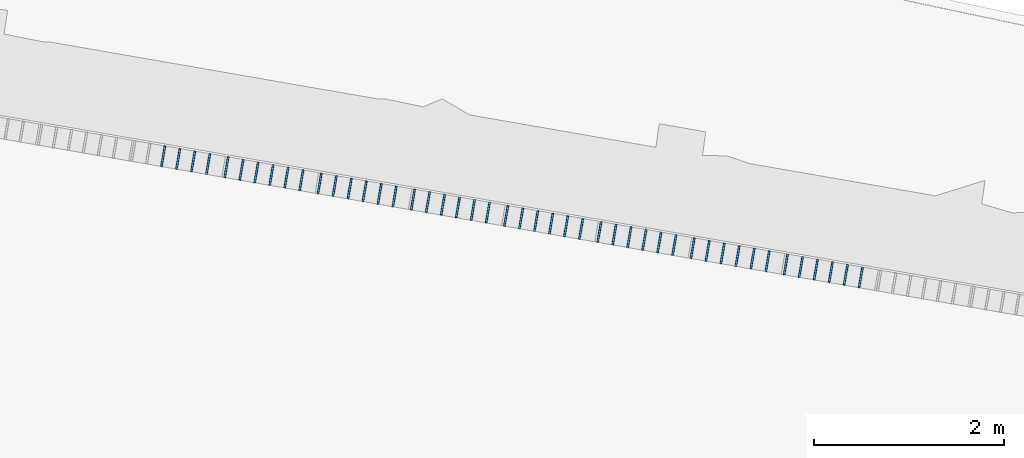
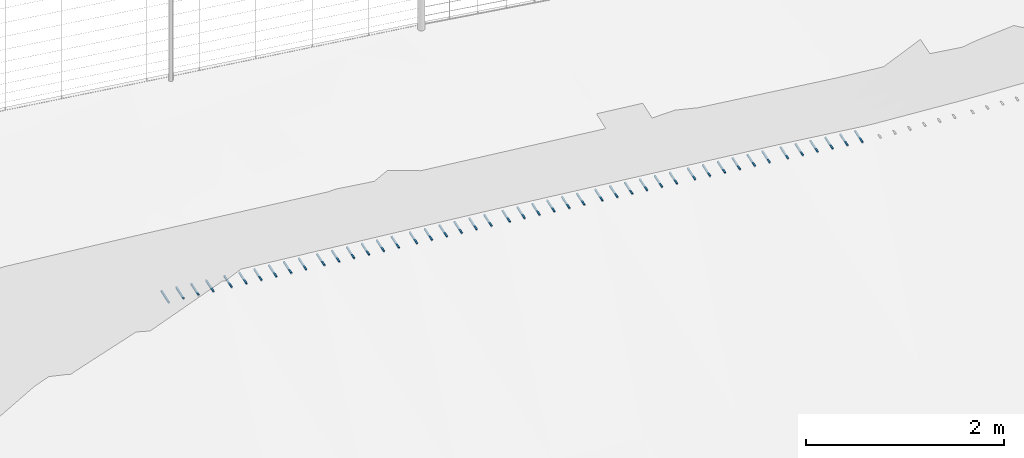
# Not in any storey, part 23 of 72: 46 members.
"""IFC4 model written with IfcOpenShell, lengths in metres."""

import ifcopenshell
import ifcopenshell.guid

model = None  # the IFC model being written
_history = None  # IfcOwnerHistory: only IFC2X3 demands one
_inside = {}  # id of a spatial element -> (the spatial element, [elements in it])
_under = {}  # id of a project, library or spatial element -> (it, [spatial elements below it])
_declared = {}  # id of a project -> (the project, [libraries it declares])
_typed = {}  # id of a type object -> (the type object, [elements of that type])
_made_of = {}  # id of a material, layer set ... -> (it, [elements and type objects made of it])


def new_model(schema):
    """Start an empty IFC model of exactly this schema.

    Asked for "IFC4X3", IfcOpenShell would pick the latest addendum, in which some entities
    have other attributes; the version numbers below select the first issue.
    IFC2X3 requires an IfcOwnerHistory on every rooted entity: one is made here for all.
    """
    global model, _history
    if schema == "IFC4X3":
        model = ifcopenshell.file(schema_version=(4, 3, 0, 0))
    else:
        model = ifcopenshell.file(schema=schema)
    _inside.clear()
    _under.clear()
    _declared.clear()
    _typed.clear()
    _made_of.clear()
    _history = None
    if model.schema == "IFC2X3":
        org = make("IfcOrganization", Name="unknown")
        user = make(
            "IfcPersonAndOrganization",
            ThePerson=make("IfcPerson", FamilyName="unknown"),
            TheOrganization=org,
        )
        app = make(
            "IfcApplication",
            ApplicationDeveloper=org,
            Version="unknown",
            ApplicationFullName="unknown",
            ApplicationIdentifier="unknown",
        )
        _history = make(
            "IfcOwnerHistory",
            OwningUser=user,
            OwningApplication=app,
            ChangeAction="ADDED",
            CreationDate=0,
        )
    return model


def make(cls, **values):
    """One entity of the class cls with the attributes given. An attribute that is None is left unset."""
    return model.create_entity(
        cls, **{name: value for name, value in values.items() if value is not None}
    )


def rooted(cls, **values):
    """An entity with a GlobalId (a new one), such as an element, a storey or a relation."""
    return make(cls, GlobalId=ifcopenshell.guid.new(), OwnerHistory=_history, **values)


def si_unit(unit_type, name, prefix=None):
    """IfcSIUnit, for example si_unit("LENGTHUNIT", "METRE", prefix="MILLI")."""
    return make("IfcSIUnit", UnitType=unit_type, Prefix=prefix, Name=name)


def assignment(units):
    """IfcUnitAssignment: the units of a project."""
    return None if units is None else make("IfcUnitAssignment", Units=units)


def point(xyz):
    """IfcCartesianPoint."""
    return None if xyz is None else make("IfcCartesianPoint", Coordinates=xyz)


def direction(xyz):
    """IfcDirection."""
    return None if xyz is None else make("IfcDirection", DirectionRatios=xyz)


def frame(location, z_axis=None, x_axis=None):
    """IfcAxis2Placement3D, a coordinate frame: its origin and axes. An axis left out is left unset."""
    return make(
        "IfcAxis2Placement3D",
        Location=point(location),
        Axis=direction(z_axis),
        RefDirection=direction(x_axis),
    )


def origin_with_axes():
    """The frame at (0, 0, 0) with the z axis (0, 0, 1) and the x axis (1, 0, 0) written out."""
    return frame((0.0, 0.0, 0.0), z_axis=(0.0, 0.0, 1.0), x_axis=(1.0, 0.0, 0.0))


def place(relative_to, where):
    """IfcLocalPlacement: puts the frame where relative to a parent placement (None: the world)."""
    return make(
        "IfcLocalPlacement", PlacementRelTo=relative_to, RelativePlacement=where
    )


def context(
    kind, dimensions, precision=None, world=None, true_north=None, identifier=None
):
    """IfcGeometricRepresentationContext, for example the 3D "Model" context."""
    return make(
        "IfcGeometricRepresentationContext",
        ContextIdentifier=identifier,
        ContextType=kind,
        CoordinateSpaceDimension=dimensions,
        Precision=precision,
        WorldCoordinateSystem=world,
        TrueNorth=true_north,
    )


def subcontext(parent, identifier, kind, view, scale=None):
    """IfcGeometricRepresentationSubContext, for example "Body" below "Model"."""
    return make(
        "IfcGeometricRepresentationSubContext",
        ContextIdentifier=identifier,
        ContextType=kind,
        ParentContext=parent,
        TargetScale=scale,
        TargetView=view,
    )


def project(units=None, contexts=None):
    """IfcProject with its units and contexts."""
    return rooted(
        "IfcProject",
        Name="project",
        RepresentationContexts=contexts,
        UnitsInContext=assignment(units),
    )


def spatial(cls, under=None, at=None, **own):
    """A site, building, storey or space (cls), placed at a placement, below another one or the project."""
    s = rooted(cls, ObjectPlacement=at, **own)
    if under is not None:
        _under.setdefault(under.id(), (under, []))[1].append(s)
    return s


def profile(cls, at=None, kind="AREA", **sizes):
    """A parametric profile (cls). Its sizes go by their IFC names, for example OverallWidth=200.0."""
    return make(cls, ProfileType=kind, Position=at, **sizes)


def rectangle(**sizes):
    """IfcRectangleProfileDef."""
    return profile("IfcRectangleProfileDef", **sizes)


def extrude(swept, where, along, depth):
    """IfcExtrudedAreaSolid: the profile swept, set in the frame where, extruded along a direction by depth."""
    return make(
        "IfcExtrudedAreaSolid",
        SweptArea=swept,
        Position=where,
        ExtrudedDirection=direction(along),
        Depth=depth,
    )


def shape(context_of_items, identifier, shape_type, items):
    """IfcShapeRepresentation: the items that make up one representation, for example the "Body"."""
    return make(
        "IfcShapeRepresentation",
        ContextOfItems=context_of_items,
        RepresentationIdentifier=identifier,
        RepresentationType=shape_type,
        Items=items,
    )


def material(Name=None, Category=None):
    """IfcMaterial."""
    return make("IfcMaterial", Name=Name, Category=Category)


def material_profile(
    of_material, cross_section, Name=None, Category=None, Priority=None
):
    """IfcMaterialProfile: a cross section and its material."""
    return make(
        "IfcMaterialProfile",
        Name=Name,
        Material=of_material,
        Profile=cross_section,
        Priority=Priority,
        Category=Category,
    )


def profile_set(profiles, Name=None, composite=None):
    """IfcMaterialProfileSet."""
    return make(
        "IfcMaterialProfileSet",
        Name=Name,
        MaterialProfiles=profiles,
        CompositeProfile=composite,
    )


def profile_usage(for_profile_set, cardinal=None, extent=None):
    """IfcMaterialProfileSetUsage: how a profile set lies along its element."""
    return make(
        "IfcMaterialProfileSetUsage",
        ForProfileSet=for_profile_set,
        CardinalPoint=cardinal,
        ReferenceExtent=extent,
    )


def made_of(thing, what):
    """Note that an element or type object is made of a material, layer set ...; save() writes the relation."""
    if what is not None:
        _made_of.setdefault(what.id(), (what, []))[1].append(thing)
    return thing


def type_object(cls, material=None, **own):
    """A type object (cls), such as IfcWallType, which elements share."""
    return made_of(rooted(cls, **own), material)


def element(
    cls,
    number,
    at=None,
    inside=None,
    cuts=None,
    type_object=None,
    material=None,
    context=None,
    identifier="Body",
    shape_type=None,
    held_by="IfcProductDefinitionShape",
    body=None,
    shapes=None,
    **own,
):
    """One element of the class cls, such as IfcWall. Its Tag is "e" and its number.

    at: its placement. inside: the storey or other place that contains it. cuts: it is an
    opening in that element (IfcRelVoidsElement). A single representation is given by context,
    identifier, shape_type and body (its items); several are given by shapes. held_by: the class
    of the entity that holds the representations. save() writes the other relations.
    """
    e = rooted(cls, Tag="e%d" % number, ObjectPlacement=at, **own)
    if body is not None:
        shapes = [shape(context, identifier, shape_type, body)]
    if shapes is not None:
        e.Representation = make(held_by, Representations=shapes)
    if inside is not None:
        _inside.setdefault(inside.id(), (inside, []))[1].append(e)
    if cuts is not None:
        rooted(
            "IfcRelVoidsElement", RelatingBuildingElement=cuts, RelatedOpeningElement=e
        )
    if type_object is not None:
        _typed.setdefault(type_object.id(), (type_object, []))[1].append(e)
    return made_of(e, material)


def aggregate(whole, parts):
    """IfcRelAggregates: a whole, such as a stair, and the parts it consists of."""
    return rooted("IfcRelAggregates", RelatingObject=whole, RelatedObjects=parts)


def save(model, path):
    """Write the relations noted so far, then the file.

    IfcRelAggregates (storeys below a building ...), IfcRelContainedInSpatialStructure (elements
    in a storey), IfcRelDefinesByType, IfcRelAssociatesMaterial and IfcRelDeclares: one each for
    every whole, place, type object, material and project.
    """
    for whole, parts in _under.values():
        aggregate(whole, parts)
    for where, things in _inside.values():
        rooted(
            "IfcRelContainedInSpatialStructure",
            RelatedElements=things,
            RelatingStructure=where,
        )
    for kind, things in _typed.values():
        rooted("IfcRelDefinesByType", RelatedObjects=things, RelatingType=kind)
    for what, things in _made_of.values():
        rooted("IfcRelAssociatesMaterial", RelatedObjects=things, RelatingMaterial=what)
    for by, libraries in _declared.values():
        rooted("IfcRelDeclares", RelatingContext=by, RelatedDefinitions=libraries)
    model.write(path)


model = new_model("IFC4")

# Units and contexts
model_context = context("Model", 3, precision=1e-05, world=origin_with_axes(), true_north=direction((0.0, 1.0)))
body_context = subcontext(model_context, "Body", "Model", "MODEL_VIEW")
ifc_project = project(units=[si_unit("VOLUMEUNIT", "CUBIC_METRE"), si_unit("LENGTHUNIT", "METRE"), si_unit("AREAUNIT", "SQUARE_METRE")], contexts=[model_context])

# Site
site_placement = place(None, origin_with_axes())
site = spatial("IfcSite", under=ifc_project, at=site_placement, Name="Lares · Rua das Mercês · artigo 4771")

# Members
ifc_material = material(Name="Aço galvanizado / Stahl verzinkt", Category="steel")
ifc_material_profile = material_profile(ifc_material, rectangle(XDim=0.018, YDim=0.018))
ifc_profile_set = profile_set([ifc_material_profile], Name="R0.018")
ifc_profile_usage_1 = profile_usage(ifc_profile_set)
member_type = type_object("IfcMemberType", Name="R0.018 / galvanized", PredefinedType="NOTDEFINED", material=ifc_profile_set)
member_1_placement = place(site_placement, frame((52.1385251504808, 10.7294969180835, 14.9724957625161), z_axis=(0.171148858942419, 0.985245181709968, 0.0), x_axis=(0.985245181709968, -0.171148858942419, 0.0)))
element("IfcMember", 1, at=member_1_placement, inside=site, type_object=member_type, material=ifc_profile_usage_1, Name="Acesso · dreno lateral raso · grelha", context=body_context, shape_type="SweptSolid", body=[
    extrude(rectangle(XDim=0.018, YDim=0.018), origin_with_axes(), (0.0, 0.0, 1.0), 0.220000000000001),
])
ifc_profile_usage_2 = profile_usage(ifc_profile_set)
member_2_placement = place(site_placement, frame((52.2961643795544, 10.7021131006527, 14.977378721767), z_axis=(0.171148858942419, 0.985245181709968, 0.0), x_axis=(0.985245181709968, -0.171148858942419, 0.0)))
element("IfcMember", 2, at=member_2_placement, inside=site, type_object=member_type, material=ifc_profile_usage_2, Name="Acesso · dreno lateral raso · grelha", context=body_context, shape_type="SweptSolid", body=[
    extrude(rectangle(XDim=0.018, YDim=0.018), origin_with_axes(), (0.0, 0.0, 1.0), 0.220000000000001),
])
ifc_profile_usage_3 = profile_usage(ifc_profile_set)
member_3_placement = place(site_placement, frame((52.453803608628, 10.6747292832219, 14.9822616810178), z_axis=(0.171148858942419, 0.985245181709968, 0.0), x_axis=(0.985245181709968, -0.171148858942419, 0.0)))
element("IfcMember", 3, at=member_3_placement, inside=site, type_object=member_type, material=ifc_profile_usage_3, Name="Acesso · dreno lateral raso · grelha", context=body_context, shape_type="SweptSolid", body=[
    extrude(rectangle(XDim=0.018, YDim=0.018), origin_with_axes(), (0.0, 0.0, 1.0), 0.220000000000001),
])
ifc_profile_usage_4 = profile_usage(ifc_profile_set)
member_4_placement = place(site_placement, frame((52.6114428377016, 10.6473454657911, 14.9871446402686), z_axis=(0.171148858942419, 0.985245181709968, 0.0), x_axis=(0.985245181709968, -0.171148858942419, 0.0)))
element("IfcMember", 4, at=member_4_placement, inside=site, type_object=member_type, material=ifc_profile_usage_4, Name="Acesso · dreno lateral raso · grelha", context=body_context, shape_type="SweptSolid", body=[
    extrude(rectangle(XDim=0.018, YDim=0.018), origin_with_axes(), (0.0, 0.0, 1.0), 0.220000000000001),
])
ifc_profile_usage_5 = profile_usage(ifc_profile_set)
member_5_placement = place(site_placement, frame((52.8041241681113, 10.6138744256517, 14.9930826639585), z_axis=(0.171148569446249, 0.985245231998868, 0.0), x_axis=(0.985245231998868, -0.171148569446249, 0.0)))
element("IfcMember", 5, at=member_5_placement, inside=site, type_object=member_type, material=ifc_profile_usage_5, Name="Acesso · dreno lateral raso · grelha", context=body_context, shape_type="SweptSolid", body=[
    extrude(rectangle(XDim=0.018, YDim=0.018), origin_with_axes(), (0.0, 0.0, 1.0), 0.220000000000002),
])
ifc_profile_usage_6 = profile_usage(ifc_profile_set)
member_6_placement = place(site_placement, frame((52.9617634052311, 10.5864906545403, 14.9978035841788), z_axis=(0.171148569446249, 0.985245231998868, 0.0), x_axis=(0.985245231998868, -0.171148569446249, 0.0)))
element("IfcMember", 6, at=member_6_placement, inside=site, type_object=member_type, material=ifc_profile_usage_6, Name="Acesso · dreno lateral raso · grelha", context=body_context, shape_type="SweptSolid", body=[
    extrude(rectangle(XDim=0.018, YDim=0.018), origin_with_axes(), (0.0, 0.0, 1.0), 0.220000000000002),
])
ifc_profile_usage_7 = profile_usage(ifc_profile_set)
member_7_placement = place(site_placement, frame((53.1194026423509, 10.5591068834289, 15.002524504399), z_axis=(0.171148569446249, 0.985245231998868, 0.0), x_axis=(0.985245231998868, -0.171148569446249, 0.0)))
element("IfcMember", 7, at=member_7_placement, inside=site, type_object=member_type, material=ifc_profile_usage_7, Name="Acesso · dreno lateral raso · grelha", context=body_context, shape_type="SweptSolid", body=[
    extrude(rectangle(XDim=0.018, YDim=0.018), origin_with_axes(), (0.0, 0.0, 1.0), 0.220000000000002),
])
ifc_profile_usage_8 = profile_usage(ifc_profile_set)
member_8_placement = place(site_placement, frame((53.2770418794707, 10.5317231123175, 15.0072454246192), z_axis=(0.171148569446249, 0.985245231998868, 0.0), x_axis=(0.985245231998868, -0.171148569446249, 0.0)))
element("IfcMember", 8, at=member_8_placement, inside=site, type_object=member_type, material=ifc_profile_usage_8, Name="Acesso · dreno lateral raso · grelha", context=body_context, shape_type="SweptSolid", body=[
    extrude(rectangle(XDim=0.018, YDim=0.018), origin_with_axes(), (0.0, 0.0, 1.0), 0.220000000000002),
])
ifc_profile_usage_9 = profile_usage(ifc_profile_set)
member_9_placement = place(site_placement, frame((53.4346811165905, 10.5043393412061, 15.0119663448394), z_axis=(0.171148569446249, 0.985245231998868, 0.0), x_axis=(0.985245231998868, -0.171148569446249, 0.0)))
element("IfcMember", 9, at=member_9_placement, inside=site, type_object=member_type, material=ifc_profile_usage_9, Name="Acesso · dreno lateral raso · grelha", context=body_context, shape_type="SweptSolid", body=[
    extrude(rectangle(XDim=0.018, YDim=0.018), origin_with_axes(), (0.0, 0.0, 1.0), 0.220000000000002),
])
ifc_profile_usage_10 = profile_usage(ifc_profile_set)
member_10_placement = place(site_placement, frame((53.5923203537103, 10.4769555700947, 15.0166872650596), z_axis=(0.171148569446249, 0.985245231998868, 0.0), x_axis=(0.985245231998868, -0.171148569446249, 0.0)))
element("IfcMember", 10, at=member_10_placement, inside=site, type_object=member_type, material=ifc_profile_usage_10, Name="Acesso · dreno lateral raso · grelha", context=body_context, shape_type="SweptSolid", body=[
    extrude(rectangle(XDim=0.018, YDim=0.018), origin_with_axes(), (0.0, 0.0, 1.0), 0.220000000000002),
])
ifc_profile_usage_11 = profile_usage(ifc_profile_set)
member_11_placement = place(site_placement, frame((53.7850053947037, 10.4434839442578, 15.022427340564), z_axis=(0.171148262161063, 0.985245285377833, 0.0), x_axis=(0.985245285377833, -0.171148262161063, 0.0)))
element("IfcMember", 11, at=member_11_placement, inside=site, type_object=member_type, material=ifc_profile_usage_11, Name="Acesso · dreno lateral raso · grelha", context=body_context, shape_type="SweptSolid", body=[
    extrude(rectangle(XDim=0.018, YDim=0.018), origin_with_axes(), (0.0, 0.0, 1.0), 0.22),
])
ifc_profile_usage_12 = profile_usage(ifc_profile_set)
member_12_placement = place(site_placement, frame((53.9426446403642, 10.416100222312, 15.0269862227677), z_axis=(0.171148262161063, 0.985245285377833, 0.0), x_axis=(0.985245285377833, -0.171148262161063, 0.0)))
element("IfcMember", 12, at=member_12_placement, inside=site, type_object=member_type, material=ifc_profile_usage_12, Name="Acesso · dreno lateral raso · grelha", context=body_context, shape_type="SweptSolid", body=[
    extrude(rectangle(XDim=0.018, YDim=0.018), origin_with_axes(), (0.0, 0.0, 1.0), 0.22),
])
ifc_profile_usage_13 = profile_usage(ifc_profile_set)
member_13_placement = place(site_placement, frame((54.1002838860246, 10.3887165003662, 15.0315451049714), z_axis=(0.171148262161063, 0.985245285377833, 0.0), x_axis=(0.985245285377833, -0.171148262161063, 0.0)))
element("IfcMember", 13, at=member_13_placement, inside=site, type_object=member_type, material=ifc_profile_usage_13, Name="Acesso · dreno lateral raso · grelha", context=body_context, shape_type="SweptSolid", body=[
    extrude(rectangle(XDim=0.018, YDim=0.018), origin_with_axes(), (0.0, 0.0, 1.0), 0.22),
])
ifc_profile_usage_14 = profile_usage(ifc_profile_set)
member_14_placement = place(site_placement, frame((54.2579231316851, 10.3613327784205, 15.0361039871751), z_axis=(0.171148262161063, 0.985245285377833, 0.0), x_axis=(0.985245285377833, -0.171148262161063, 0.0)))
element("IfcMember", 14, at=member_14_placement, inside=site, type_object=member_type, material=ifc_profile_usage_14, Name="Acesso · dreno lateral raso · grelha", context=body_context, shape_type="SweptSolid", body=[
    extrude(rectangle(XDim=0.018, YDim=0.018), origin_with_axes(), (0.0, 0.0, 1.0), 0.22),
])
ifc_profile_usage_15 = profile_usage(ifc_profile_set)
member_15_placement = place(site_placement, frame((54.4155623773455, 10.3339490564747, 15.0406628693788), z_axis=(0.171148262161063, 0.985245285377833, 0.0), x_axis=(0.985245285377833, -0.171148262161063, 0.0)))
element("IfcMember", 15, at=member_15_placement, inside=site, type_object=member_type, material=ifc_profile_usage_15, Name="Acesso · dreno lateral raso · grelha", context=body_context, shape_type="SweptSolid", body=[
    extrude(rectangle(XDim=0.018, YDim=0.018), origin_with_axes(), (0.0, 0.0, 1.0), 0.22),
])
ifc_profile_usage_16 = profile_usage(ifc_profile_set)
member_16_placement = place(site_placement, frame((54.573201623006, 10.3065653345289, 15.0452217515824), z_axis=(0.171148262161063, 0.985245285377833, 0.0), x_axis=(0.985245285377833, -0.171148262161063, 0.0)))
element("IfcMember", 16, at=member_16_placement, inside=site, type_object=member_type, material=ifc_profile_usage_16, Name="Acesso · dreno lateral raso · grelha", context=body_context, shape_type="SweptSolid", body=[
    extrude(rectangle(XDim=0.018, YDim=0.018), origin_with_axes(), (0.0, 0.0, 1.0), 0.22),
])
ifc_profile_usage_17 = profile_usage(ifc_profile_set)
member_17_placement = place(site_placement, frame((54.7658905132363, 10.2730931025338, 15.0507638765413), z_axis=(0.171147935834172, 0.985245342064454, 0.0), x_axis=(0.985245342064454, -0.171147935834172, 0.0)))
element("IfcMember", 17, at=member_17_placement, inside=site, type_object=member_type, material=ifc_profile_usage_17, Name="Acesso · dreno lateral raso · grelha", context=body_context, shape_type="SweptSolid", body=[
    extrude(rectangle(XDim=0.018, YDim=0.018), origin_with_axes(), (0.0, 0.0, 1.0), 0.219999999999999),
])
ifc_profile_usage_18 = profile_usage(ifc_profile_set)
member_18_placement = place(site_placement, frame((54.9235297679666, 10.2457094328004, 15.0551607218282), z_axis=(0.171147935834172, 0.985245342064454, 0.0), x_axis=(0.985245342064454, -0.171147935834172, 0.0)))
element("IfcMember", 18, at=member_18_placement, inside=site, type_object=member_type, material=ifc_profile_usage_18, Name="Acesso · dreno lateral raso · grelha", context=body_context, shape_type="SweptSolid", body=[
    extrude(rectangle(XDim=0.018, YDim=0.018), origin_with_axes(), (0.0, 0.0, 1.0), 0.219999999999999),
])
ifc_profile_usage_19 = profile_usage(ifc_profile_set)
member_19_placement = place(site_placement, frame((55.0811690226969, 10.2183257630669, 15.0595575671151), z_axis=(0.171147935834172, 0.985245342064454, 0.0), x_axis=(0.985245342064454, -0.171147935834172, 0.0)))
element("IfcMember", 19, at=member_19_placement, inside=site, type_object=member_type, material=ifc_profile_usage_19, Name="Acesso · dreno lateral raso · grelha", context=body_context, shape_type="SweptSolid", body=[
    extrude(rectangle(XDim=0.018, YDim=0.018), origin_with_axes(), (0.0, 0.0, 1.0), 0.219999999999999),
])
ifc_profile_usage_20 = profile_usage(ifc_profile_set)
member_20_placement = place(site_placement, frame((55.2388082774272, 10.1909420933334, 15.063954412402), z_axis=(0.171147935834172, 0.985245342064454, 0.0), x_axis=(0.985245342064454, -0.171147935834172, 0.0)))
element("IfcMember", 20, at=member_20_placement, inside=site, type_object=member_type, material=ifc_profile_usage_20, Name="Acesso · dreno lateral raso · grelha", context=body_context, shape_type="SweptSolid", body=[
    extrude(rectangle(XDim=0.018, YDim=0.018), origin_with_axes(), (0.0, 0.0, 1.0), 0.219999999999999),
])
ifc_profile_usage_21 = profile_usage(ifc_profile_set)
member_21_placement = place(site_placement, frame((55.3964475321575, 10.1635584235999, 15.0683512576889), z_axis=(0.171147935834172, 0.985245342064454, 0.0), x_axis=(0.985245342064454, -0.171147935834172, 0.0)))
element("IfcMember", 21, at=member_21_placement, inside=site, type_object=member_type, material=ifc_profile_usage_21, Name="Acesso · dreno lateral raso · grelha", context=body_context, shape_type="SweptSolid", body=[
    extrude(rectangle(XDim=0.018, YDim=0.018), origin_with_axes(), (0.0, 0.0, 1.0), 0.219999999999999),
])
ifc_profile_usage_22 = profile_usage(ifc_profile_set)
member_22_placement = place(site_placement, frame((55.5540867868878, 10.1361747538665, 15.0727481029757), z_axis=(0.171147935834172, 0.985245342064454, 0.0), x_axis=(0.985245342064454, -0.171147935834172, 0.0)))
element("IfcMember", 22, at=member_22_placement, inside=site, type_object=member_type, material=ifc_profile_usage_22, Name="Acesso · dreno lateral raso · grelha", context=body_context, shape_type="SweptSolid", body=[
    extrude(rectangle(XDim=0.018, YDim=0.018), origin_with_axes(), (0.0, 0.0, 1.0), 0.219999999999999),
])
ifc_profile_usage_23 = profile_usage(ifc_profile_set)
member_23_placement = place(site_placement, frame((55.7467796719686, 10.1027018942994, 15.0778981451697), z_axis=(0.171147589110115, 0.985245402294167, 0.0), x_axis=(0.985245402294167, -0.171147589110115, 0.0)))
element("IfcMember", 23, at=member_23_placement, inside=site, type_object=member_type, material=ifc_profile_usage_23, Name="Acesso · dreno lateral raso · grelha", context=body_context, shape_type="SweptSolid", body=[
    extrude(rectangle(XDim=0.018, YDim=0.018), origin_with_axes(), (0.0, 0.0, 1.0), 0.22),
])
ifc_profile_usage_24 = profile_usage(ifc_profile_set)
member_24_placement = place(site_placement, frame((55.9044189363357, 10.0753182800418, 15.0810975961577), z_axis=(0.171147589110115, 0.985245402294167, 0.0), x_axis=(0.985245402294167, -0.171147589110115, 0.0)))
element("IfcMember", 24, at=member_24_placement, inside=site, type_object=member_type, material=ifc_profile_usage_24, Name="Acesso · dreno lateral raso · grelha", context=body_context, shape_type="SweptSolid", body=[
    extrude(rectangle(XDim=0.018, YDim=0.018), origin_with_axes(), (0.0, 0.0, 1.0), 0.22),
])
ifc_profile_usage_25 = profile_usage(ifc_profile_set)
member_25_placement = place(site_placement, frame((56.0620582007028, 10.0479346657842, 15.0842970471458), z_axis=(0.171147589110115, 0.985245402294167, 0.0), x_axis=(0.985245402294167, -0.171147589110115, 0.0)))
element("IfcMember", 25, at=member_25_placement, inside=site, type_object=member_type, material=ifc_profile_usage_25, Name="Acesso · dreno lateral raso · grelha", context=body_context, shape_type="SweptSolid", body=[
    extrude(rectangle(XDim=0.018, YDim=0.018), origin_with_axes(), (0.0, 0.0, 1.0), 0.22),
])
ifc_profile_usage_26 = profile_usage(ifc_profile_set)
member_26_placement = place(site_placement, frame((56.2196974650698, 10.0205510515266, 15.0874964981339), z_axis=(0.171147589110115, 0.985245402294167, 0.0), x_axis=(0.985245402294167, -0.171147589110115, 0.0)))
element("IfcMember", 26, at=member_26_placement, inside=site, type_object=member_type, material=ifc_profile_usage_26, Name="Acesso · dreno lateral raso · grelha", context=body_context, shape_type="SweptSolid", body=[
    extrude(rectangle(XDim=0.018, YDim=0.018), origin_with_axes(), (0.0, 0.0, 1.0), 0.22),
])
ifc_profile_usage_27 = profile_usage(ifc_profile_set)
member_27_placement = place(site_placement, frame((56.3773367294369, 9.99316743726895, 15.0906959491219), z_axis=(0.171147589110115, 0.985245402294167, 0.0), x_axis=(0.985245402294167, -0.171147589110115, 0.0)))
element("IfcMember", 27, at=member_27_placement, inside=site, type_object=member_type, material=ifc_profile_usage_27, Name="Acesso · dreno lateral raso · grelha", context=body_context, shape_type="SweptSolid", body=[
    extrude(rectangle(XDim=0.018, YDim=0.018), origin_with_axes(), (0.0, 0.0, 1.0), 0.22),
])
ifc_profile_usage_28 = profile_usage(ifc_profile_set)
member_28_placement = place(site_placement, frame((56.534975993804, 9.96578382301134, 15.09389540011), z_axis=(0.171147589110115, 0.985245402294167, 0.0), x_axis=(0.985245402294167, -0.171147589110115, 0.0)))
element("IfcMember", 28, at=member_28_placement, inside=site, type_object=member_type, material=ifc_profile_usage_28, Name="Acesso · dreno lateral raso · grelha", context=body_context, shape_type="SweptSolid", body=[
    extrude(rectangle(XDim=0.018, YDim=0.018), origin_with_axes(), (0.0, 0.0, 1.0), 0.22),
])
ifc_profile_usage_29 = profile_usage(ifc_profile_set)
member_29_placement = place(site_placement, frame((56.7276730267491, 9.93231031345, 15.0978063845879), z_axis=(0.171147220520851, 0.985245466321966, 0.0), x_axis=(0.985245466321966, -0.171147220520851, 0.0)))
element("IfcMember", 29, at=member_29_placement, inside=site, type_object=member_type, material=ifc_profile_usage_29, Name="Acesso · dreno lateral raso · grelha", context=body_context, shape_type="SweptSolid", body=[
    extrude(rectangle(XDim=0.018, YDim=0.018), origin_with_axes(), (0.0, 0.0, 1.0), 0.22),
])
ifc_profile_usage_30 = profile_usage(ifc_profile_set)
member_30_placement = place(site_placement, frame((56.8853123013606, 9.90492675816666, 15.1010058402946), z_axis=(0.171147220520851, 0.985245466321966, 0.0), x_axis=(0.985245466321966, -0.171147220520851, 0.0)))
element("IfcMember", 30, at=member_30_placement, inside=site, type_object=member_type, material=ifc_profile_usage_30, Name="Acesso · dreno lateral raso · grelha", context=body_context, shape_type="SweptSolid", body=[
    extrude(rectangle(XDim=0.018, YDim=0.018), origin_with_axes(), (0.0, 0.0, 1.0), 0.22),
])
ifc_profile_usage_31 = profile_usage(ifc_profile_set)
member_31_placement = place(site_placement, frame((57.0429515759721, 9.87754320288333, 15.1042052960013), z_axis=(0.171147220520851, 0.985245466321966, 0.0), x_axis=(0.985245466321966, -0.171147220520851, 0.0)))
element("IfcMember", 31, at=member_31_placement, inside=site, type_object=member_type, material=ifc_profile_usage_31, Name="Acesso · dreno lateral raso · grelha", context=body_context, shape_type="SweptSolid", body=[
    extrude(rectangle(XDim=0.018, YDim=0.018), origin_with_axes(), (0.0, 0.0, 1.0), 0.22),
])
ifc_profile_usage_32 = profile_usage(ifc_profile_set)
member_32_placement = place(site_placement, frame((57.2005908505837, 9.85015964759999, 15.107404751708), z_axis=(0.171147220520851, 0.985245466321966, 0.0), x_axis=(0.985245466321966, -0.171147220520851, 0.0)))
element("IfcMember", 32, at=member_32_placement, inside=site, type_object=member_type, material=ifc_profile_usage_32, Name="Acesso · dreno lateral raso · grelha", context=body_context, shape_type="SweptSolid", body=[
    extrude(rectangle(XDim=0.018, YDim=0.018), origin_with_axes(), (0.0, 0.0, 1.0), 0.22),
])
ifc_profile_usage_33 = profile_usage(ifc_profile_set)
member_33_placement = place(site_placement, frame((57.3582301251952, 9.82277609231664, 15.1106042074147), z_axis=(0.171147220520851, 0.985245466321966, 0.0), x_axis=(0.985245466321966, -0.171147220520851, 0.0)))
element("IfcMember", 33, at=member_33_placement, inside=site, type_object=member_type, material=ifc_profile_usage_33, Name="Acesso · dreno lateral raso · grelha", context=body_context, shape_type="SweptSolid", body=[
    extrude(rectangle(XDim=0.018, YDim=0.018), origin_with_axes(), (0.0, 0.0, 1.0), 0.22),
])
ifc_profile_usage_34 = profile_usage(ifc_profile_set)
member_34_placement = place(site_placement, frame((57.5158693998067, 9.7953925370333, 15.1138036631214), z_axis=(0.171147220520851, 0.985245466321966, 0.0), x_axis=(0.985245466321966, -0.171147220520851, 0.0)))
element("IfcMember", 34, at=member_34_placement, inside=site, type_object=member_type, material=ifc_profile_usage_34, Name="Acesso · dreno lateral raso · grelha", context=body_context, shape_type="SweptSolid", body=[
    extrude(rectangle(XDim=0.018, YDim=0.018), origin_with_axes(), (0.0, 0.0, 1.0), 0.22),
])
ifc_profile_usage_35 = profile_usage(ifc_profile_set)
member_35_placement = place(site_placement, frame((57.7085707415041, 9.76191835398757, 15.1177147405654), z_axis=(0.17114682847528, 0.985245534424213, 0.0), x_axis=(0.985245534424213, -0.17114682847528, 0.0)))
element("IfcMember", 35, at=member_35_placement, inside=site, type_object=member_type, material=ifc_profile_usage_35, Name="Acesso · dreno lateral raso · grelha", context=body_context, shape_type="SweptSolid", body=[
    extrude(rectangle(XDim=0.018, YDim=0.018), origin_with_axes(), (0.0, 0.0, 1.0), 0.219999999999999),
])
ifc_profile_usage_36 = profile_usage(ifc_profile_set)
member_36_placement = place(site_placement, frame((57.8662100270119, 9.73453486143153, 15.120914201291), z_axis=(0.17114682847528, 0.985245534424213, 0.0), x_axis=(0.985245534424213, -0.17114682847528, 0.0)))
element("IfcMember", 36, at=member_36_placement, inside=site, type_object=member_type, material=ifc_profile_usage_36, Name="Acesso · dreno lateral raso · grelha", context=body_context, shape_type="SweptSolid", body=[
    extrude(rectangle(XDim=0.018, YDim=0.018), origin_with_axes(), (0.0, 0.0, 1.0), 0.219999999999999),
])
ifc_profile_usage_37 = profile_usage(ifc_profile_set)
member_37_placement = place(site_placement, frame((58.0238493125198, 9.70715136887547, 15.1241136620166), z_axis=(0.17114682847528, 0.985245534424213, 0.0), x_axis=(0.985245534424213, -0.17114682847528, 0.0)))
element("IfcMember", 37, at=member_37_placement, inside=site, type_object=member_type, material=ifc_profile_usage_37, Name="Acesso · dreno lateral raso · grelha", context=body_context, shape_type="SweptSolid", body=[
    extrude(rectangle(XDim=0.018, YDim=0.018), origin_with_axes(), (0.0, 0.0, 1.0), 0.219999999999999),
])
ifc_profile_usage_38 = profile_usage(ifc_profile_set)
member_38_placement = place(site_placement, frame((58.1814885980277, 9.67976787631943, 15.1273131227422), z_axis=(0.17114682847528, 0.985245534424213, 0.0), x_axis=(0.985245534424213, -0.17114682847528, 0.0)))
element("IfcMember", 38, at=member_38_placement, inside=site, type_object=member_type, material=ifc_profile_usage_38, Name="Acesso · dreno lateral raso · grelha", context=body_context, shape_type="SweptSolid", body=[
    extrude(rectangle(XDim=0.018, YDim=0.018), origin_with_axes(), (0.0, 0.0, 1.0), 0.219999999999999),
])
ifc_profile_usage_39 = profile_usage(ifc_profile_set)
member_39_placement = place(site_placement, frame((58.3391278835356, 9.65238438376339, 15.1305125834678), z_axis=(0.17114682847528, 0.985245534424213, 0.0), x_axis=(0.985245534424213, -0.17114682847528, 0.0)))
element("IfcMember", 39, at=member_39_placement, inside=site, type_object=member_type, material=ifc_profile_usage_39, Name="Acesso · dreno lateral raso · grelha", context=body_context, shape_type="SweptSolid", body=[
    extrude(rectangle(XDim=0.018, YDim=0.018), origin_with_axes(), (0.0, 0.0, 1.0), 0.219999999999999),
])
ifc_profile_usage_40 = profile_usage(ifc_profile_set)
member_40_placement = place(site_placement, frame((58.4967671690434, 9.62500089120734, 15.1337120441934), z_axis=(0.17114682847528, 0.985245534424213, 0.0), x_axis=(0.985245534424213, -0.17114682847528, 0.0)))
element("IfcMember", 40, at=member_40_placement, inside=site, type_object=member_type, material=ifc_profile_usage_40, Name="Acesso · dreno lateral raso · grelha", context=body_context, shape_type="SweptSolid", body=[
    extrude(rectangle(XDim=0.018, YDim=0.018), origin_with_axes(), (0.0, 0.0, 1.0), 0.219999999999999),
])
ifc_profile_usage_41 = profile_usage(ifc_profile_set)
member_41_placement = place(site_placement, frame((58.6894729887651, 9.59152601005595, 15.137278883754), z_axis=(0.171146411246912, 0.985245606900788, 0.0), x_axis=(0.985245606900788, -0.171146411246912, 0.0)))
element("IfcMember", 41, at=member_41_placement, inside=site, type_object=member_type, material=ifc_profile_usage_41, Name="Acesso · dreno lateral raso · grelha", context=body_context, shape_type="SweptSolid", body=[
    extrude(rectangle(XDim=0.018, YDim=0.018), origin_with_axes(), (0.0, 0.0, 1.0), 0.219999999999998),
])
ifc_profile_usage_42 = profile_usage(ifc_profile_set)
member_42_placement = place(site_placement, frame((58.8471122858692, 9.56414258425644, 15.1386418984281), z_axis=(0.171146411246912, 0.985245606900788, 0.0), x_axis=(0.985245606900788, -0.171146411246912, 0.0)))
element("IfcMember", 42, at=member_42_placement, inside=site, type_object=member_type, material=ifc_profile_usage_42, Name="Acesso · dreno lateral raso · grelha", context=body_context, shape_type="SweptSolid", body=[
    extrude(rectangle(XDim=0.018, YDim=0.018), origin_with_axes(), (0.0, 0.0, 1.0), 0.219999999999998),
])
ifc_profile_usage_43 = profile_usage(ifc_profile_set)
member_43_placement = place(site_placement, frame((59.0047515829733, 9.53675915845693, 15.1400049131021), z_axis=(0.171146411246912, 0.985245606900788, 0.0), x_axis=(0.985245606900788, -0.171146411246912, 0.0)))
element("IfcMember", 43, at=member_43_placement, inside=site, type_object=member_type, material=ifc_profile_usage_43, Name="Acesso · dreno lateral raso · grelha", context=body_context, shape_type="SweptSolid", body=[
    extrude(rectangle(XDim=0.018, YDim=0.018), origin_with_axes(), (0.0, 0.0, 1.0), 0.219999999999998),
])
ifc_profile_usage_44 = profile_usage(ifc_profile_set)
member_44_placement = place(site_placement, frame((59.1623908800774, 9.50937573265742, 15.1413679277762), z_axis=(0.171146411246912, 0.985245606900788, 0.0), x_axis=(0.985245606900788, -0.171146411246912, 0.0)))
element("IfcMember", 44, at=member_44_placement, inside=site, type_object=member_type, material=ifc_profile_usage_44, Name="Acesso · dreno lateral raso · grelha", context=body_context, shape_type="SweptSolid", body=[
    extrude(rectangle(XDim=0.018, YDim=0.018), origin_with_axes(), (0.0, 0.0, 1.0), 0.219999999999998),
])
ifc_profile_usage_45 = profile_usage(ifc_profile_set)
member_45_placement = place(site_placement, frame((59.3200301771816, 9.48199230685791, 15.1427309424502), z_axis=(0.171146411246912, 0.985245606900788, 0.0), x_axis=(0.985245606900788, -0.171146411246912, 0.0)))
element("IfcMember", 45, at=member_45_placement, inside=site, type_object=member_type, material=ifc_profile_usage_45, Name="Acesso · dreno lateral raso · grelha", context=body_context, shape_type="SweptSolid", body=[
    extrude(rectangle(XDim=0.018, YDim=0.018), origin_with_axes(), (0.0, 0.0, 1.0), 0.219999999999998),
])
ifc_profile_usage_46 = profile_usage(ifc_profile_set)
member_46_placement = place(site_placement, frame((59.4776694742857, 9.4546088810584, 15.1440939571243), z_axis=(0.171146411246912, 0.985245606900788, 0.0), x_axis=(0.985245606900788, -0.171146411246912, 0.0)))
element("IfcMember", 46, at=member_46_placement, inside=site, type_object=member_type, material=ifc_profile_usage_46, Name="Acesso · dreno lateral raso · grelha", context=body_context, shape_type="SweptSolid", body=[
    extrude(rectangle(XDim=0.018, YDim=0.018), origin_with_axes(), (0.0, 0.0, 1.0), 0.219999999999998),
])

save(model, "model.ifc")
